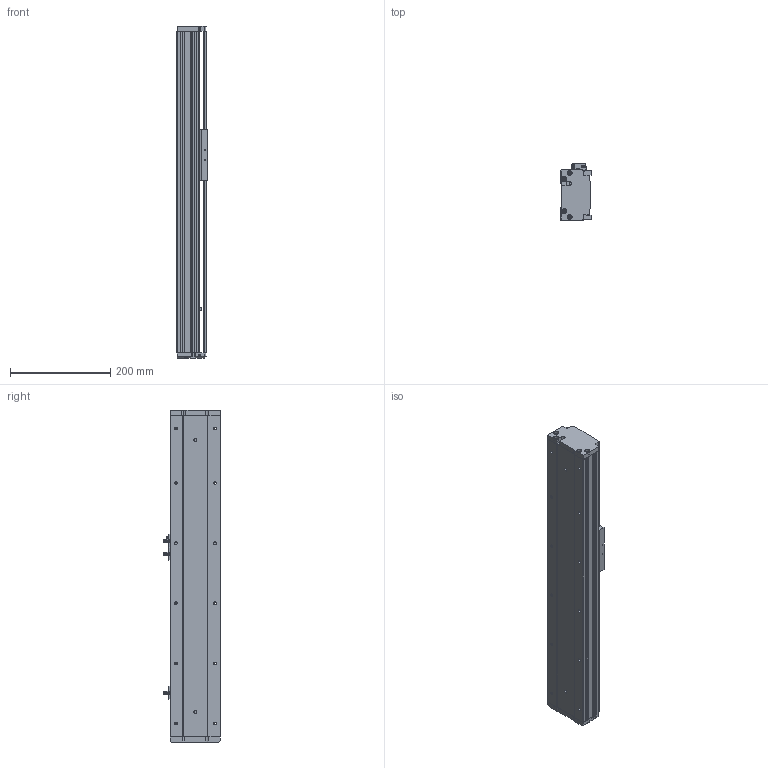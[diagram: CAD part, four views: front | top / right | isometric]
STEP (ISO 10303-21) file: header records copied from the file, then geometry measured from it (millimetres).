
FILE_DESCRIPTION (( 'STEP AP214' ), '1' );
FILE_NAME ('KSD100S-S300-M-CM.STEP', '2019-08-29T08:29:59', ( '微软用户' ), ( '微软中国' ), 'SwSTEP 2.0', 'SolidWorks 2014', '' );
FILE_SCHEMA (( 'AUTOMOTIVE_DESIGN' ));
Length unit declared in the file: millimetre
Products named in the file (8): 覜茼え100遵圉猾敕; U倰嫖萇EEㄜSX672; 100宽防尘板丝杆300行程电机内装; 100宽马达安装板-电机内装; 100宽滚珠螺姆安装板半封闭; 100遵傷啣; 100宽底板半封闭丝杆300行程电机内装; KSD100S-S300-M-CM
Assembly tree (9 placements, depth 2):
  KSD100S-S300-M-CM
    100宽底板半封闭丝杆300行程电机内装
    100遵傷啣
    100宽滚珠螺姆安装板半封闭
    100宽马达安装板-电机内装
    100宽防尘板丝杆300行程电机内装
    U倰嫖萇EEㄜSX672  x3
    覜茼え100遵圉猾敕
Bounding box: 60 x 113.7 x 663 mm (x, y, z)
Volume: 1345981.9 mm3; surface area: 486916.5 mm2
Topology: 9 solids, 9 shells, 979 faces, 2778 edges, 1763 vertices
Faces by surface type: cylinder 442, plane 436, cone 101
Entity records: 33188 total; most frequent: CARTESIAN_POINT 6500, DIRECTION 4339, ORIENTED_EDGE 4256, EDGE_CURVE 2128, AXIS2_PLACEMENT_3D 1542, VERTEX_POINT 1387, LINE 1255, VECTOR 1255
